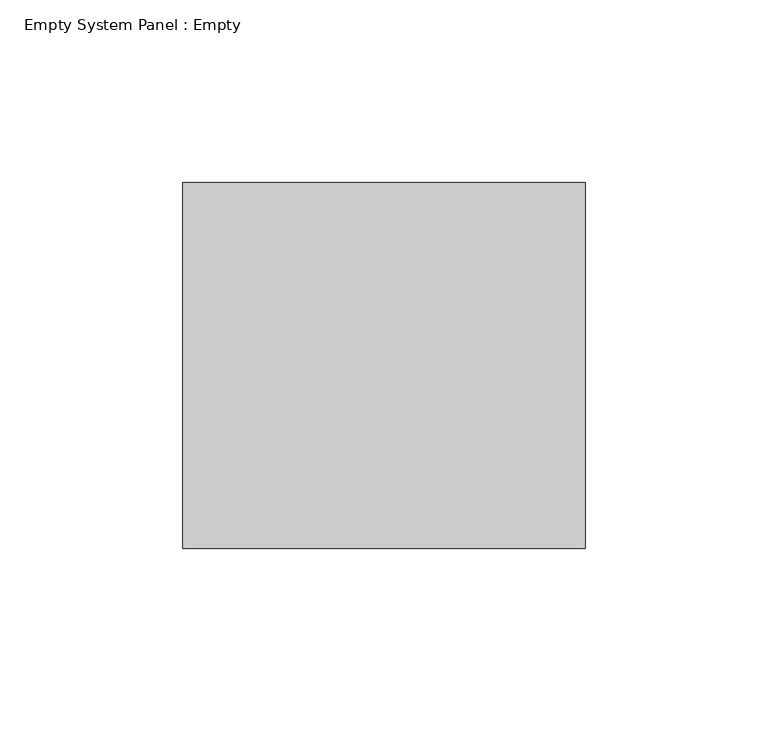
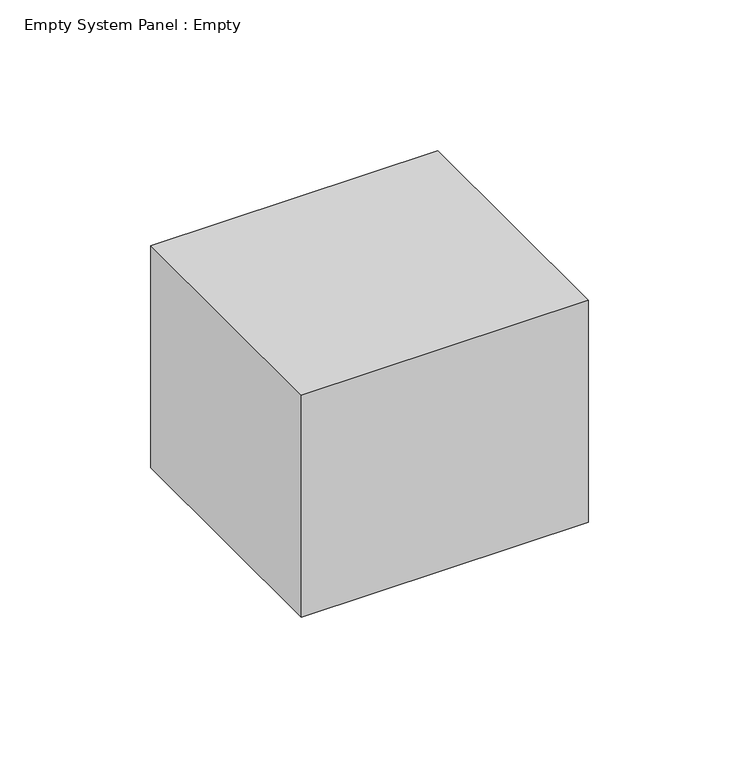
"""IFC4 building model written with IfcOpenShell, lengths in millimetres: plate geometry, Empty System Panel : Empty."""

from ifc_helpers import new_model, si_unit, origin, origin_with_axes, place, context, project, spatial, polyline, outline, extrude, source, transform, mapped, element, save


def empty_system_panel_empty_1faefc6a(model_context):
    return source(origin(), model_context, "Body", "SweptSolid", [
        extrude(outline(polyline([(55.0, 50.0), (-55.0, 50.0), (-55.0, 150.0), (55.0, 150.0), (55.0, 50.0)])), origin_with_axes(), (0.0, 0.0, 1.0), 90.0),
    ])


if __name__ == "__main__":
    model = new_model("IFC4")
    model_context = context("Model", 3, world=origin())
    ifc_project = project(units=[si_unit("LENGTHUNIT", "METRE", prefix="MILLI")], contexts=[model_context])
    site = spatial("IfcSite", under=ifc_project)
    building = spatial("IfcBuilding", under=site)
    placement = place(None, origin())
    empty_system_panel_empty_shape = empty_system_panel_empty_1faefc6a(model_context)
    element("IfcPlate", 1, ObjectType="Empty System Panel : Empty", at=placement, inside=building, context=model_context, shape_type="MappedRepresentation", body=[
        mapped(empty_system_panel_empty_shape, transform((0.0, 0.0, 0.0), x_axis=(1.0, 0.0, 0.0), y_axis=(0.0, 1.0, 0.0), z_axis=(0.0, 0.0, 1.0))),
    ])
    save(model, "model.ifc")
